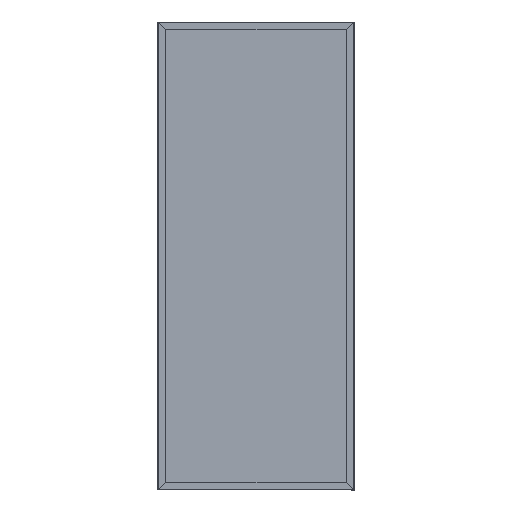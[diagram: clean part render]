
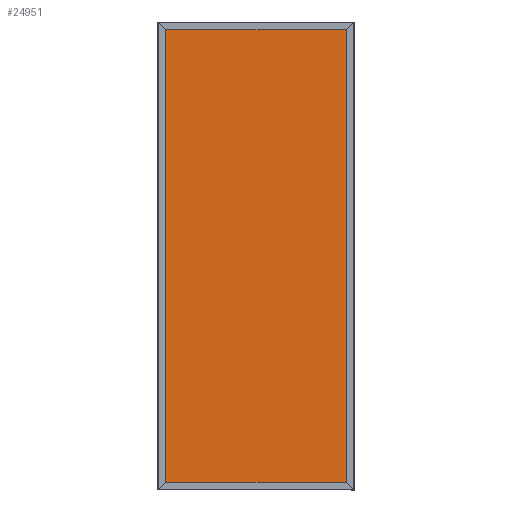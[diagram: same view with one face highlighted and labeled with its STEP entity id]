
A CAD part, top view. The second image highlights one B-rep face of the part: STEP entity #24951.
In plain terms, the highlighted planar face has unit normal (0, 0, 1).
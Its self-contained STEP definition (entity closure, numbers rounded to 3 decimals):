
#86 = LINE ( 'NONE', #7661, #26266 ) ;
#1008 = EDGE_CURVE ( 'NONE', #7476, #14607, #26836, .T. ) ;
#1030 = ORIENTED_EDGE ( 'NONE', *, *, #1008, .T. ) ;
#3894 = EDGE_CURVE ( 'NONE', #8033, #23930, #12775, .T. ) ;
#4595 = CARTESIAN_POINT ( 'NONE',  ( 465.07, 1162.2, -13.25 ) ) ;
#4826 = CARTESIAN_POINT ( 'NONE',  ( 0., 1162.2, -13.25 ) ) ;
#5344 = VECTOR ( 'NONE', #24717, 1000. ) ;
#5730 = CARTESIAN_POINT ( 'NONE',  ( 465.07, 0., -13.25 ) ) ;
#6835 = ORIENTED_EDGE ( 'NONE', *, *, #13410, .F. ) ;
#7476 = VERTEX_POINT ( 'NONE', #23554 ) ;
#7661 = CARTESIAN_POINT ( 'NONE',  ( 0., -1162.2, -13.25 ) ) ;
#7978 = DIRECTION ( 'NONE',  ( -1., 0., 0. ) ) ;
#8033 = VERTEX_POINT ( 'NONE', #14528 ) ;
#9070 = FACE_OUTER_BOUND ( 'NONE', #28876, .T. ) ;
#12426 = EDGE_CURVE ( 'NONE', #14607, #23930, #22838, .T. ) ;
#12461 = ORIENTED_EDGE ( 'NONE', *, *, #3894, .F. ) ;
#12706 = CARTESIAN_POINT ( 'NONE',  ( -465.07, 1162.2, -13.25 ) ) ;
#12775 = LINE ( 'NONE', #22233, #5344 ) ;
#13410 = EDGE_CURVE ( 'NONE', #7476, #8033, #86, .T. ) ;
#14528 = CARTESIAN_POINT ( 'NONE',  ( -465.07, -1162.2, -13.25 ) ) ;
#14607 = VERTEX_POINT ( 'NONE', #4595 ) ;
#15903 = DIRECTION ( 'NONE',  ( -1., 0., 0. ) ) ;
#16333 = VECTOR ( 'NONE', #21285, 1000. ) ;
#17224 = DIRECTION ( 'NONE',  ( 0., 1., 0. ) ) ;
#18222 = PLANE ( 'NONE',  #27242 ) ;
#19140 = VECTOR ( 'NONE', #17224, 1000. ) ;
#20228 = ORIENTED_EDGE ( 'NONE', *, *, #12426, .T. ) ;
#21285 = DIRECTION ( 'NONE',  ( -1., 0., 0. ) ) ;
#22233 = CARTESIAN_POINT ( 'NONE',  ( -465.07, 0., -13.25 ) ) ;
#22838 = LINE ( 'NONE', #4826, #16333 ) ;
#23554 = CARTESIAN_POINT ( 'NONE',  ( 465.07, -1162.2, -13.25 ) ) ;
#23930 = VERTEX_POINT ( 'NONE', #12706 ) ;
#24717 = DIRECTION ( 'NONE',  ( 0., 1., 0. ) ) ;
#24951 = ADVANCED_FACE ( 'NONE', ( #9070 ), #18222, .F. ) ;
#26266 = VECTOR ( 'NONE', #7978, 1000. ) ;
#26836 = LINE ( 'NONE', #5730, #19140 ) ;
#27242 = AXIS2_PLACEMENT_3D ( 'NONE', #27696, #27993, #15903 ) ;
#27696 = CARTESIAN_POINT ( 'NONE',  ( 0., 0., -13.25 ) ) ;
#27993 = DIRECTION ( 'NONE',  ( 0., 0., -1. ) ) ;
#28876 = EDGE_LOOP ( 'NONE', ( #12461, #6835, #1030, #20228 ) ) ;
